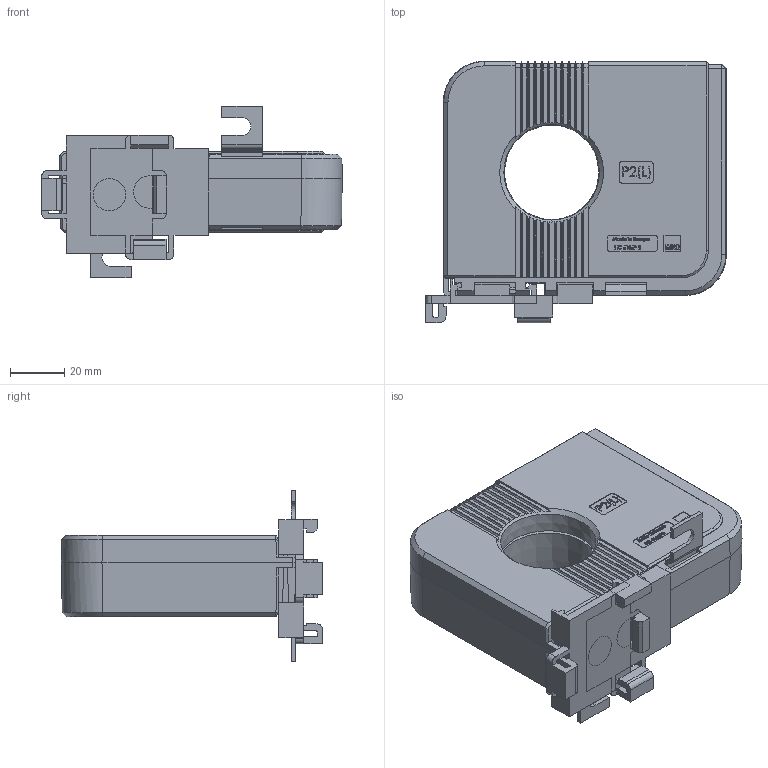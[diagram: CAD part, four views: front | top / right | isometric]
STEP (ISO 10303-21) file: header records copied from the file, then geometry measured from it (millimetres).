
FILE_DESCRIPTION (( 'STEP AP214' ), '1' );
FILE_NAME ('DACT35-Wandler_kpl.STEP', '2018-07-18T08:13:22', ( '' ), ( '' ), 'SwSTEP 2.0', 'SolidWorks 2016', '' );
FILE_SCHEMA (( 'AUTOMOTIVE_DESIGN' ));
Length unit declared in the file: millimetre
Products named in the file (5): DACT35_Grundmodell_90°-Elektronik; Schnappbefestigung_55014_1; Fusswinkel_1,5_1; DACT35_Gehäuseoberteil_4polig_90°-Elektronik_4polige Variante; DACT35-Wandler_kpl
Assembly tree (6 placements, depth 2):
  DACT35-Wandler_kpl
    DACT35_Gehäuseoberteil_4polig_90°-Elektronik_4polige Variante
    Fusswinkel_1,5_1  x2
    Schnappbefestigung_55014_1  x2
    DACT35_Grundmodell_90°-Elektronik
Bounding box: 111 x 96.5 x 63.4 mm (x, y, z)
Volume: 240589.5 mm3; surface area: 58722.4 mm2
Topology: 6 solids, 6 shells, 1287 faces, 3359 edges, 2142 vertices
Faces by surface type: plane 919, bspline 171, cylinder 151, cone 25, torus 17, sphere 4
Full cylindrical faces by diameter (mm): 12 x2, 40 x1
Entity records: 45493 total; most frequent: CARTESIAN_POINT 17856, ORIENTED_EDGE 6156, DIRECTION 4794, EDGE_CURVE 3078, LINE 2292, VECTOR 2292, VERTEX_POINT 1960, EDGE_LOOP 1268
